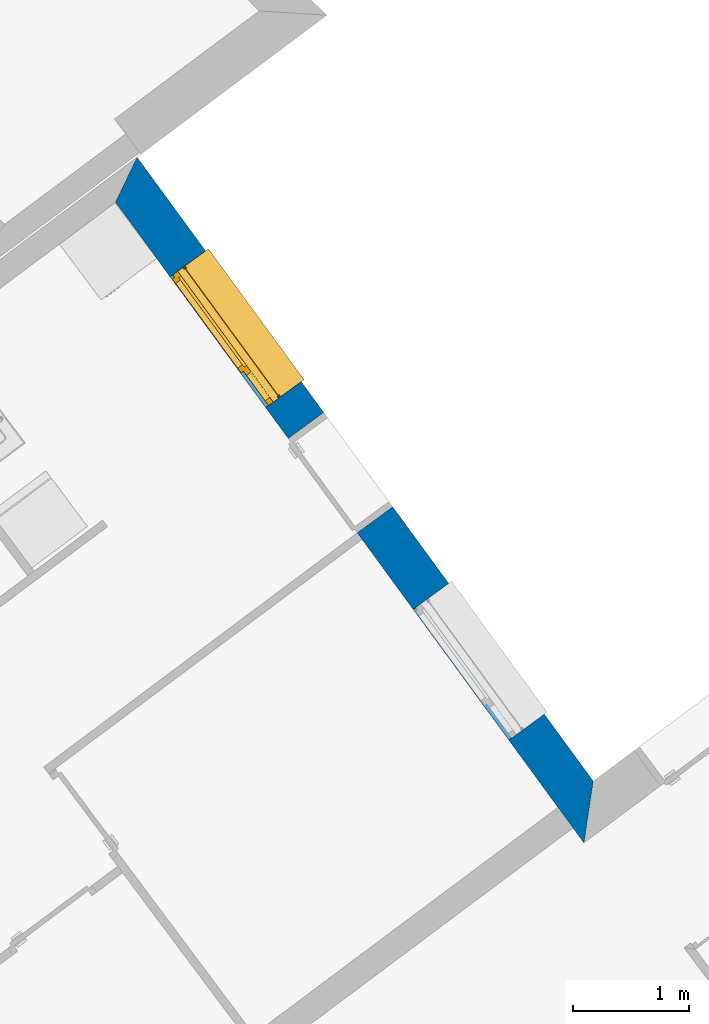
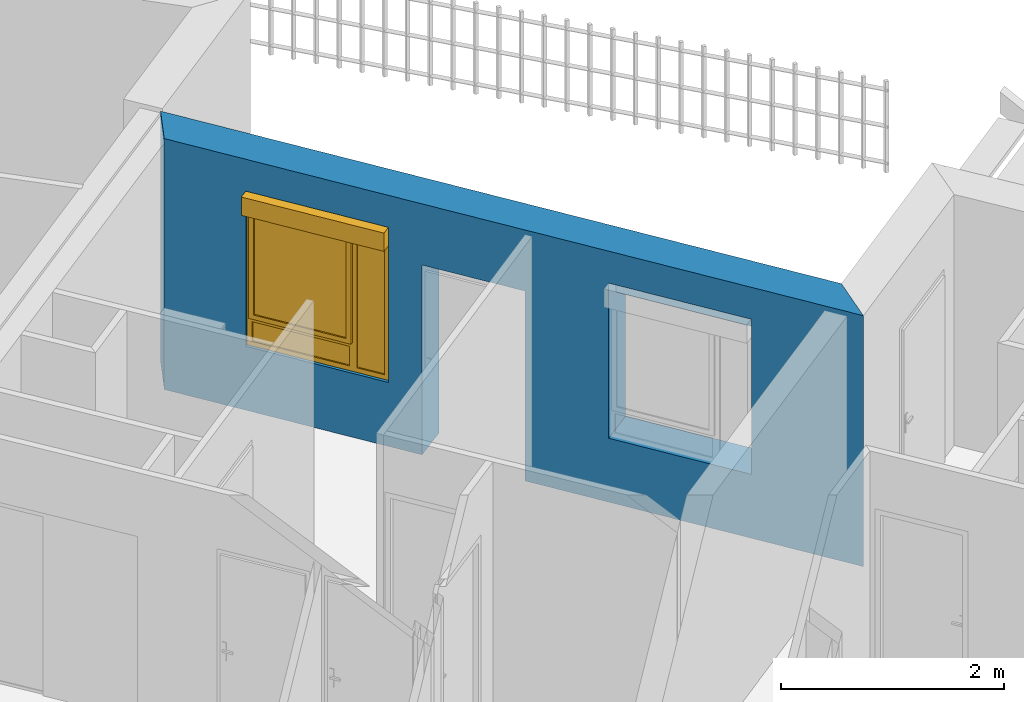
# One storey, part 11 of 195: 1 wall, 1 window, 3 openings.
"""IFC2X3 building model written with IfcOpenShell, lengths in metres."""

import ifcopenshell
import ifcopenshell.guid

model = None  # the IFC model being written
_history = None  # IfcOwnerHistory: only IFC2X3 demands one
_inside = {}  # id of a spatial element -> (the spatial element, [elements in it])
_under = {}  # id of a project, library or spatial element -> (it, [spatial elements below it])
_declared = {}  # id of a project -> (the project, [libraries it declares])
_typed = {}  # id of a type object -> (the type object, [elements of that type])
_made_of = {}  # id of a material, layer set ... -> (it, [elements and type objects made of it])


def new_model(schema):
    """Start an empty IFC model of exactly this schema.

    Asked for "IFC4X3", IfcOpenShell would pick the latest addendum, in which some entities
    have other attributes; the version numbers below select the first issue.
    IFC2X3 requires an IfcOwnerHistory on every rooted entity: one is made here for all.
    """
    global model, _history
    if schema == "IFC4X3":
        model = ifcopenshell.file(schema_version=(4, 3, 0, 0))
    else:
        model = ifcopenshell.file(schema=schema)
    _inside.clear()
    _under.clear()
    _declared.clear()
    _typed.clear()
    _made_of.clear()
    _history = None
    if model.schema == "IFC2X3":
        org = make("IfcOrganization", Name="unknown")
        user = make(
            "IfcPersonAndOrganization",
            ThePerson=make("IfcPerson", FamilyName="unknown"),
            TheOrganization=org,
        )
        app = make(
            "IfcApplication",
            ApplicationDeveloper=org,
            Version="unknown",
            ApplicationFullName="unknown",
            ApplicationIdentifier="unknown",
        )
        _history = make(
            "IfcOwnerHistory",
            OwningUser=user,
            OwningApplication=app,
            ChangeAction="ADDED",
            CreationDate=0,
        )
    return model


def make(cls, **values):
    """One entity of the class cls with the attributes given. An attribute that is None is left unset."""
    return model.create_entity(
        cls, **{name: value for name, value in values.items() if value is not None}
    )


def entity(cls, *values):
    """Any entity or typed value of the class cls, its attributes in the order of the schema. None: left unset."""
    e = model.create_entity(cls)
    for i, value in enumerate(values):
        if value is not None:
            e[i] = value
    return e


def rooted(cls, **values):
    """An entity with a GlobalId (a new one), such as an element, a storey or a relation."""
    return make(cls, GlobalId=ifcopenshell.guid.new(), OwnerHistory=_history, **values)


def si_unit(unit_type, name, prefix=None):
    """IfcSIUnit, for example si_unit("LENGTHUNIT", "METRE", prefix="MILLI")."""
    return make("IfcSIUnit", UnitType=unit_type, Prefix=prefix, Name=name)


def converted_unit(unit_type, name, factor, base, dimensions=None, offset=None):
    """IfcConversionBasedUnit, such as the inch: factor (a typed value) times the base unit."""
    return make(
        "IfcConversionBasedUnit"
        if offset is None
        else "IfcConversionBasedUnitWithOffset",
        ConversionOffset=offset,
        Dimensions=None
        if dimensions is None
        else entity("IfcDimensionalExponents", *dimensions),
        UnitType=unit_type,
        Name=name,
        ConversionFactor=make(
            "IfcMeasureWithUnit", ValueComponent=factor, UnitComponent=base
        ),
    )


def derived_unit(unit_type, elements):
    """IfcDerivedUnit: a product of units, each with its exponent."""
    return make(
        "IfcDerivedUnit",
        Elements=[
            make("IfcDerivedUnitElement", Unit=unit, Exponent=power)
            for unit, power in elements
        ],
        UnitType=unit_type,
    )


def money_unit(currency):
    """IfcMonetaryUnit."""
    return make("IfcMonetaryUnit", Currency=currency)


def assignment(units):
    """IfcUnitAssignment: the units of a project."""
    return None if units is None else make("IfcUnitAssignment", Units=units)


def point(xyz):
    """IfcCartesianPoint."""
    return None if xyz is None else make("IfcCartesianPoint", Coordinates=xyz)


def direction(xyz):
    """IfcDirection."""
    return None if xyz is None else make("IfcDirection", DirectionRatios=xyz)


def frame(location, z_axis=None, x_axis=None):
    """IfcAxis2Placement3D, a coordinate frame: its origin and axes. An axis left out is left unset."""
    return make(
        "IfcAxis2Placement3D",
        Location=point(location),
        Axis=direction(z_axis),
        RefDirection=direction(x_axis),
    )


def frame_2d(location, x_axis=None):
    """IfcAxis2Placement2D, a coordinate frame in the plane: its origin and x axis."""
    return make(
        "IfcAxis2Placement2D", Location=point(location), RefDirection=direction(x_axis)
    )


def origin_with_axes():
    """The frame at (0, 0, 0) with the z axis (0, 0, 1) and the x axis (1, 0, 0) written out."""
    return frame((0.0, 0.0, 0.0), z_axis=(0.0, 0.0, 1.0), x_axis=(1.0, 0.0, 0.0))


def origin_2d_with_axis():
    """The frame at (0, 0) in the plane with the x axis (1, 0) written out."""
    return frame_2d((0.0, 0.0), x_axis=(1.0, 0.0))


def place(relative_to, where):
    """IfcLocalPlacement: puts the frame where relative to a parent placement (None: the world)."""
    return make(
        "IfcLocalPlacement", PlacementRelTo=relative_to, RelativePlacement=where
    )


def context(
    kind, dimensions, precision=None, world=None, true_north=None, identifier=None
):
    """IfcGeometricRepresentationContext, for example the 3D "Model" context."""
    return make(
        "IfcGeometricRepresentationContext",
        ContextIdentifier=identifier,
        ContextType=kind,
        CoordinateSpaceDimension=dimensions,
        Precision=precision,
        WorldCoordinateSystem=world,
        TrueNorth=true_north,
    )


def subcontext(parent, identifier, kind, view, scale=None):
    """IfcGeometricRepresentationSubContext, for example "Body" below "Model"."""
    return make(
        "IfcGeometricRepresentationSubContext",
        ContextIdentifier=identifier,
        ContextType=kind,
        ParentContext=parent,
        TargetScale=scale,
        TargetView=view,
    )


def project(units=None, contexts=None):
    """IfcProject with its units and contexts."""
    return rooted(
        "IfcProject",
        Name="project",
        RepresentationContexts=contexts,
        UnitsInContext=assignment(units),
    )


def spatial(cls, under=None, at=None, **own):
    """A site, building, storey or space (cls), placed at a placement, below another one or the project."""
    s = rooted(cls, ObjectPlacement=at, **own)
    if under is not None:
        _under.setdefault(under.id(), (under, []))[1].append(s)
    return s


def polyline(points):
    """IfcPolyline through the points."""
    return make("IfcPolyline", Points=[point(p) for p in points])


def profile(cls, at=None, kind="AREA", **sizes):
    """A parametric profile (cls). Its sizes go by their IFC names, for example OverallWidth=200.0."""
    return make(cls, ProfileType=kind, Position=at, **sizes)


def rectangle(**sizes):
    """IfcRectangleProfileDef."""
    return profile("IfcRectangleProfileDef", **sizes)


def outline(outer, holes=None, kind="AREA"):
    """IfcArbitraryClosedProfileDef: a profile drawn as a closed curve; with holes, ...WithVoids."""
    if holes is None:
        return make("IfcArbitraryClosedProfileDef", ProfileType=kind, OuterCurve=outer)
    return make(
        "IfcArbitraryProfileDefWithVoids",
        ProfileType=kind,
        OuterCurve=outer,
        InnerCurves=holes,
    )


def extrude(swept, where, along, depth):
    """IfcExtrudedAreaSolid: the profile swept, set in the frame where, extruded along a direction by depth."""
    return make(
        "IfcExtrudedAreaSolid",
        SweptArea=swept,
        Position=where,
        ExtrudedDirection=direction(along),
        Depth=depth,
    )


def faces_of(points, faces, orient=None, outer=None):
    """IfcFace entities. A face is a list of loops; a loop is a list of indices into points, from 0.

    orient and outer hold one flag for each loop. By default every Orientation is true, the
    first loop of a face is its IfcFaceOuterBound and the others are IfcFaceBound.
    """
    made = []
    for i, loops in enumerate(faces):
        bounds = []
        for j, loop in enumerate(loops):
            is_outer = j == 0 if outer is None else outer[i][j]
            bounds.append(
                make(
                    "IfcFaceOuterBound" if is_outer else "IfcFaceBound",
                    Bound=make("IfcPolyLoop", Polygon=[points[k] for k in loop]),
                    Orientation=True if orient is None else orient[i][j],
                )
            )
        made.append(make("IfcFace", Bounds=bounds))
    return made


def open_shell(faces, orient=None, outer=None):
    """The faces of one IfcOpenShell. surface_model builds it on its shared points."""
    return ("IfcOpenShell", faces, orient, outer)


def faceted_brep(points, faces, orient=None, outer=None, voids=None):
    """IfcFacetedBrep: a solid bounded by flat faces; with voids (closed shells), ...WithVoids."""
    shared = [point(p) for p in points]
    hull = make("IfcClosedShell", CfsFaces=faces_of(shared, faces, orient, outer))
    if voids is None:
        return make("IfcFacetedBrep", Outer=hull)
    return make(
        "IfcFacetedBrepWithVoids",
        Outer=hull,
        Voids=[
            make(cls, CfsFaces=faces_of(shared, fs, o, b)) for cls, fs, o, b in voids
        ],
    )


def surface_model(cls, points, shells):
    """IfcFaceBasedSurfaceModel or IfcShellBasedSurfaceModel (cls): surfaces that need not close."""
    shared = [point(p) for p in points]
    made = [make(c, CfsFaces=faces_of(shared, fs, o, b)) for c, fs, o, b in shells]
    if cls == "IfcFaceBasedSurfaceModel":
        return make(cls, FbsmFaces=made)
    return make(cls, SbsmBoundary=made)


def shape(context_of_items, identifier, shape_type, items):
    """IfcShapeRepresentation: the items that make up one representation, for example the "Body"."""
    return make(
        "IfcShapeRepresentation",
        ContextOfItems=context_of_items,
        RepresentationIdentifier=identifier,
        RepresentationType=shape_type,
        Items=items,
    )


def source(mapping_origin, context_of_items, identifier, shape_type, items):
    """IfcRepresentationMap: a shape defined once, which mapped items show again and again."""
    return make(
        "IfcRepresentationMap",
        MappingOrigin=mapping_origin,
        MappedRepresentation=shape(context_of_items, identifier, shape_type, items),
    )


def transform(
    local_origin,
    x_axis=None,
    y_axis=None,
    z_axis=None,
    scale=None,
    scale2=None,
    scale3=None,
    uniform=True,
):
    """IfcCartesianTransformationOperator3D, or its non-uniform kind. x_axis, y_axis, z_axis: its Axis1, 2, 3."""
    if uniform:
        return make(
            "IfcCartesianTransformationOperator3D",
            Axis1=direction(x_axis),
            Axis2=direction(y_axis),
            LocalOrigin=point(local_origin),
            Scale=scale,
            Axis3=direction(z_axis),
        )
    return make(
        "IfcCartesianTransformationOperator3DnonUniform",
        Axis1=direction(x_axis),
        Axis2=direction(y_axis),
        LocalOrigin=point(local_origin),
        Scale=scale,
        Axis3=direction(z_axis),
        Scale2=scale2,
        Scale3=scale3,
    )


def mapped(mapping_source, mapping_target):
    """IfcMappedItem: shows the shape of a source again, moved by a transform."""
    return make(
        "IfcMappedItem", MappingSource=mapping_source, MappingTarget=mapping_target
    )


def material(Name=None, Category=None):
    """IfcMaterial."""
    return make("IfcMaterial", Name=Name, Category=Category)


def layer(
    of_material, thickness, ventilated=None, Name=None, Category=None, Priority=None
):
    """IfcMaterialLayer: one layer of a wall or slab, of a material (None: an air gap)."""
    return make(
        "IfcMaterialLayer",
        Material=of_material,
        LayerThickness=thickness,
        IsVentilated=ventilated,
        Name=Name,
        Category=Category,
        Priority=Priority,
    )


def layer_set(layers, Name=None):
    """IfcMaterialLayerSet."""
    return make("IfcMaterialLayerSet", MaterialLayers=layers, LayerSetName=Name)


def layer_usage(for_layer_set, set_direction, sense, offset, extent=None):
    """IfcMaterialLayerSetUsage: how a layer set lies in its element."""
    return make(
        "IfcMaterialLayerSetUsage",
        ForLayerSet=for_layer_set,
        LayerSetDirection=set_direction,
        DirectionSense=sense,
        OffsetFromReferenceLine=offset,
        ReferenceExtent=extent,
    )


def made_of(thing, what):
    """Note that an element or type object is made of a material, layer set ...; save() writes the relation."""
    if what is not None:
        _made_of.setdefault(what.id(), (what, []))[1].append(thing)
    return thing


def type_object(cls, material=None, **own):
    """A type object (cls), such as IfcWallType, which elements share."""
    return made_of(rooted(cls, **own), material)


def element(
    cls,
    number,
    at=None,
    inside=None,
    cuts=None,
    type_object=None,
    material=None,
    context=None,
    identifier="Body",
    shape_type=None,
    held_by="IfcProductDefinitionShape",
    body=None,
    shapes=None,
    **own,
):
    """One element of the class cls, such as IfcWall. Its Tag is "e" and its number.

    at: its placement. inside: the storey or other place that contains it. cuts: it is an
    opening in that element (IfcRelVoidsElement). A single representation is given by context,
    identifier, shape_type and body (its items); several are given by shapes. held_by: the class
    of the entity that holds the representations. save() writes the other relations.
    """
    e = rooted(cls, Tag="e%d" % number, ObjectPlacement=at, **own)
    if body is not None:
        shapes = [shape(context, identifier, shape_type, body)]
    if shapes is not None:
        e.Representation = make(held_by, Representations=shapes)
    if inside is not None:
        _inside.setdefault(inside.id(), (inside, []))[1].append(e)
    if cuts is not None:
        rooted(
            "IfcRelVoidsElement", RelatingBuildingElement=cuts, RelatedOpeningElement=e
        )
    if type_object is not None:
        _typed.setdefault(type_object.id(), (type_object, []))[1].append(e)
    return made_of(e, material)


def fill(opening, filler):
    """IfcRelFillsElement: the door or window that sits in an opening."""
    return rooted(
        "IfcRelFillsElement",
        RelatingOpeningElement=opening,
        RelatedBuildingElement=filler,
    )


def aggregate(whole, parts):
    """IfcRelAggregates: a whole, such as a stair, and the parts it consists of."""
    return rooted("IfcRelAggregates", RelatingObject=whole, RelatedObjects=parts)


def save(model, path):
    """Write the relations noted so far, then the file.

    IfcRelAggregates (storeys below a building ...), IfcRelContainedInSpatialStructure (elements
    in a storey), IfcRelDefinesByType, IfcRelAssociatesMaterial and IfcRelDeclares: one each for
    every whole, place, type object, material and project.
    """
    for whole, parts in _under.values():
        aggregate(whole, parts)
    for where, things in _inside.values():
        rooted(
            "IfcRelContainedInSpatialStructure",
            RelatedElements=things,
            RelatingStructure=where,
        )
    for kind, things in _typed.values():
        rooted("IfcRelDefinesByType", RelatedObjects=things, RelatingType=kind)
    for what, things in _made_of.values():
        rooted("IfcRelAssociatesMaterial", RelatedObjects=things, RelatingMaterial=what)
    for by, libraries in _declared.values():
        rooted("IfcRelDeclares", RelatingContext=by, RelatedDefinitions=libraries)
    model.write(path)


model = new_model("IFC2X3")

# Units and contexts
model_context = context("Model", 3, precision=1e-05, world=origin_with_axes(), true_north=direction((0.0, 1.0)))
body_context = subcontext(model_context, "Body", "Model", "MODEL_VIEW")
ifc_project = project(units=[si_unit("LENGTHUNIT", "METRE"), si_unit("AREAUNIT", "SQUARE_METRE"), si_unit("VOLUMEUNIT", "CUBIC_METRE"), converted_unit("PLANEANGLEUNIT", "DEGREE", entity("IfcPlaneAngleMeasure", 0.0174532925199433), si_unit("PLANEANGLEUNIT", "RADIAN"), dimensions=[0, 0, 0, 0, 0, 0, 0]), money_unit("CHF"), converted_unit("TIMEUNIT", "Year", entity("IfcTimeMeasure", 31557600.0), si_unit("TIMEUNIT", "SECOND"), dimensions=[0, 0, 1, 0, 0, 0, 0]), si_unit("MASSUNIT", "GRAM", prefix="KILO"), si_unit("THERMODYNAMICTEMPERATUREUNIT", "DEGREE_CELSIUS"), si_unit("LUMINOUSINTENSITYUNIT", "LUMEN"), si_unit("ENERGYUNIT", "JOULE", prefix="MEGA"), derived_unit("THERMALCONDUCTANCEUNIT", [(si_unit("POWERUNIT", "WATT"), 1), (si_unit("LENGTHUNIT", "METRE"), -1), (si_unit("THERMODYNAMICTEMPERATUREUNIT", "KELVIN"), -1)]), derived_unit("SPECIFICHEATCAPACITYUNIT", [(si_unit("ENERGYUNIT", "JOULE"), 1), (si_unit("MASSUNIT", "GRAM", prefix="KILO"), -1), (si_unit("THERMODYNAMICTEMPERATUREUNIT", "KELVIN"), -1)]), derived_unit("MASSDENSITYUNIT", [(si_unit("MASSUNIT", "GRAM", prefix="KILO"), 1), (si_unit("VOLUMEUNIT", "CUBIC_METRE"), -1)])], contexts=[model_context])

# Site, building, storey
site_placement = place(None, origin_with_axes())
site = spatial("IfcSite", under=ifc_project, at=site_placement, Name="Site", CompositionType="ELEMENT")
building_placement = place(site_placement, origin_with_axes())
building = spatial("IfcBuilding", under=site, at=building_placement, Name="Bâtiment", CompositionType="ELEMENT")
storey_placement = place(building_placement, origin_with_axes())
storey = spatial("IfcBuildingStorey", under=building, at=storey_placement, Name="rdc", CompositionType="ELEMENT", Elevation=0.0)

# Wall, openings, window
ifc_material_1 = material(Name="Parpaing 312445824")
ifc_layer_1 = layer(ifc_material_1, 0.22, ventilated="UNKNOWN")
ifc_material_2 = material(Name="Isolant styromousse 301821074")
ifc_layer_2 = layer(ifc_material_2, 0.16, ventilated="UNKNOWN")
ifc_layer_set = layer_set([ifc_layer_1, ifc_layer_2], Name="isol int 22+16 0836643197")
ifc_layer_usage = layer_usage(ifc_layer_set, "AXIS2", "POSITIVE", 0.0)
wall_type = type_object("IfcWallType", Name="isol int 22+16 0836643197 380", PredefinedType="NOTDEFINED")
wall_placement = place(storey_placement, frame((9541.451386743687, -1075.117736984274, 57.7), z_axis=(0.0, 0.0, 1.0), x_axis=(-0.5902012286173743, 0.8072561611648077, 0.0)))
wall = element("IfcWallStandardCase", 1, at=wall_placement, inside=storey, type_object=wall_type, material=ifc_layer_usage, Name="Mur-113", context=body_context, shape_type="SweptSolid", body=[
    extrude(outline(polyline([(0.0, 0.0), (6.680351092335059, 0.0), (6.476444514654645, 0.3800000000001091), (-0.3839160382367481, 0.3800000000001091), (0.0, 0.0)])), origin_with_axes(), (0.0, 0.0, 1.0), 2.75),
])
opening_1_placement = place(wall_placement, frame((4.976733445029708, 0.0, 0.7000000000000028), z_axis=(0.0, 0.0, 1.0), x_axis=(1.0, 0.0, 0.0)))
opening_1 = element("IfcOpeningElement", 2, at=opening_1_placement, cuts=wall, Name="Fen-045", context=body_context, shape_type="Brep", body=[
    faceted_brep([(0.7000000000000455, 0.2199999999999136, 1.5), (-0.6999999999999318, 0.2200000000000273, 1.5), (-0.7000000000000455, -3.183810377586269, 1.5), (0.6999999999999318, -3.183810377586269, 1.5), (0.7000000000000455, 0.2199999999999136, 1.700000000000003), (-0.6999999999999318, 0.2200000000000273, 1.700000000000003), (-0.6999999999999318, 0.3000000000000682, 1.5), (-0.6999999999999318, 0.3000000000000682, 0.0), (-0.7000000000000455, -3.183810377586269, 0.0), (0.6999999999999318, -3.183810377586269, 0.0), (0.7000000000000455, 0.3000000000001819, 1.5), (0.7000000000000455, 0.3000000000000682, 0.0), (0.6999999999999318, 0.4800000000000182, 1.5), (0.6999999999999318, 0.4800000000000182, 1.700000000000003), (-0.7000000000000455, 0.4799999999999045, 1.700000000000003), (-0.7000000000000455, 0.4799999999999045, 1.5), (-0.7000000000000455, 3.563810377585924, 1.5), (-0.7000000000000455, 3.563810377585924, 0.0), (0.7000000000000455, 3.563810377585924, 0.0), (0.7000000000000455, 3.563810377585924, 1.5)], [[[0, 1, 2, 3]], [[1, 0, 4, 5]], [[1, 6, 7, 8, 2]], [[2, 8, 9, 3]], [[10, 0, 3, 9, 11]], [[0, 10, 12, 13, 4]], [[14, 5, 4, 13]], [[6, 1, 5, 14, 15]], [[6, 15, 16, 17, 7]], [[11, 9, 8, 7, 17, 18]], [[12, 10, 11, 18, 19]], [[12, 15, 14, 13]], [[15, 12, 19, 16]], [[19, 18, 17, 16]]]),
])
opening_2_placement = place(wall_placement, frame((1.416247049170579, 0.0, 0.7000000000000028), z_axis=(0.0, 0.0, 1.0), x_axis=(1.0, 0.0, 0.0)))
element("IfcOpeningElement", 3, at=opening_2_placement, cuts=wall, Name="Fen-045", context=body_context, shape_type="Brep", body=[
    faceted_brep([(0.6999999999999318, 0.220000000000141, 1.5), (-0.7000000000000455, 0.220000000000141, 1.5), (-0.7000000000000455, -3.183810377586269, 1.5), (0.6999999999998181, -3.183810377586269, 1.5), (0.6999999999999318, 0.220000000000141, 1.700000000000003), (-0.7000000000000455, 0.220000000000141, 1.700000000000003), (-0.7000000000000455, 0.3000000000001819, 1.5), (-0.7000000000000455, 0.3000000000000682, 0.0), (-0.7000000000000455, -3.183810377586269, 0.0), (0.6999999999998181, -3.183810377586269, 0.0), (0.6999999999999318, 0.3000000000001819, 1.5), (0.7000000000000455, 0.3000000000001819, 0.0), (0.6999999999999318, 0.4800000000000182, 1.5), (0.6999999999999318, 0.4800000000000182, 1.700000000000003), (-0.7000000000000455, 0.4800000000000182, 1.700000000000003), (-0.7000000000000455, 0.4800000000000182, 1.5), (-0.7000000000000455, 3.563810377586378, 1.5), (-0.7000000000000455, 3.563810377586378, 0.0), (0.7000000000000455, 3.563810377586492, 0.0), (0.7000000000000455, 3.563810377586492, 1.5)], [[[0, 1, 2, 3]], [[1, 0, 4, 5]], [[1, 6, 7, 8, 2]], [[2, 8, 9, 3]], [[10, 0, 3, 9, 11]], [[0, 10, 12, 13, 4]], [[14, 5, 4, 13]], [[6, 1, 5, 14, 15]], [[6, 15, 16, 17, 7]], [[11, 9, 8, 7, 17, 18]], [[12, 10, 11, 18, 19]], [[12, 15, 14, 13]], [[15, 12, 19, 16]], [[19, 18, 17, 16]]]),
])
opening_3_placement = place(wall_placement, frame((3.44115834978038, 0.0, 0.0), z_axis=(0.0, 0.0, 1.0), x_axis=(1.0, 0.0, 0.0)))
element("IfcOpeningElement", 4, at=opening_3_placement, cuts=wall, Name="Por-303", context=body_context, shape_type="SweptSolid", body=[
    extrude(rectangle(XDim=1.01000001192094, YDim=2.079999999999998, at=origin_2d_with_axis()), frame((-5.960600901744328e-09, -0.3799999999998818, 1.039999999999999), z_axis=(0.0, -1.0, 0.0), x_axis=(-1.0, 0.0, 0.0)), (0.0, 0.0, -1.0), 0.76),
])
window_style = type_object("IfcWindowStyle", Name="Fenêtre variable 27", ConstructionType="NOTDEFINED", OperationType="TRIPLE_PANEL_LEFT", ParameterTakesPrecedence=False, Sizeable=False)
shared_shape = source(origin_with_axes(), body_context, "Body", "SurfaceModel", [
    surface_model("IfcShellBasedSurfaceModel", [(0.7, -0.05100000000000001, 0.05), (-0.7, -0.05100000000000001, 0.05000000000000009), (-0.7, -0.05100000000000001, 0.04000000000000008), (0.7, -0.05100000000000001, 0.04), (-0.7, -0.3799999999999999, 0.02900000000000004), (0.7, -0.3799999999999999, 0.02899999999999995), (-0.7, -0.3799999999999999, 0.00900000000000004), (0.7, -0.3799999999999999, 0.008999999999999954), (-0.7, -0.3699999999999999, 0.01900000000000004), (0.7, -0.3699999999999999, 0.01899999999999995)], [open_shell([[[0, 1, 2, 3]], [[3, 2, 4, 5]], [[5, 4, 6, 7]], [[7, 6, 8, 9]]])]),
    faceted_brep([(0.7, -0.13, 1.7), (0.7, 0.13, 1.7), (0.697, 0.13, 1.7), (0.697, -0.13, 1.7), (0.7, -0.13, 1.5), (0.7, 0.13, 1.5), (0.697, 0.13, 1.5), (0.697, -0.13, 1.5)], [[[0, 1, 2, 3]], [[0, 4, 5, 1]], [[1, 5, 6, 2]], [[3, 2, 6, 7]], [[4, 0, 3, 7]], [[5, 4, 7, 6]]]),
    faceted_brep([(-0.6970000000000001, -0.1299999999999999, 1.7), (-0.6970000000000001, 0.1300000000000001, 1.7), (-0.7000000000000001, 0.1300000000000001, 1.7), (-0.7000000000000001, -0.1299999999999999, 1.7), (-0.6970000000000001, -0.1299999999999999, 1.5), (-0.6970000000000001, 0.1300000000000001, 1.5), (-0.7000000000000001, 0.1300000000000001, 1.5), (-0.7000000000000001, -0.1299999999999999, 1.5)], [[[0, 1, 2, 3]], [[0, 4, 5, 1]], [[1, 5, 6, 2]], [[3, 2, 6, 7]], [[4, 0, 3, 7]], [[5, 4, 7, 6]]]),
    faceted_brep([(0.697, -0.13, 1.5), (0.697, -0.13, 1.7), (-0.697, -0.1299999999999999, 1.7), (-0.697, -0.1299999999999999, 1.5), (0.697, -0.127, 1.5), (0.697, -0.127, 1.697), (0.697, 0.127, 1.697), (0.697, 0.127, 1.503), (0.697, -0.108, 1.503), (0.697, -0.108, 1.5), (0.697, 0.13, 1.5), (0.697, 0.13, 1.7), (-0.697, 0.1300000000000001, 1.7), (-0.697, 0.1300000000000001, 1.5), (-0.697, -0.1079999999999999, 1.5), (-0.697, -0.1079999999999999, 1.503), (-0.697, 0.1270000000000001, 1.503), (-0.697, 0.1270000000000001, 1.697), (-0.697, -0.1269999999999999, 1.697), (-0.697, -0.1269999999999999, 1.5)], [[[0, 1, 2, 3]], [[0, 4, 5, 6, 7, 8, 9, 10, 11, 1]], [[1, 11, 12, 2]], [[3, 2, 12, 13, 14, 15, 16, 17, 18, 19]], [[4, 0, 3, 19]], [[5, 4, 19, 18]], [[6, 5, 18, 17]], [[7, 6, 17, 16]], [[8, 7, 16, 15]], [[9, 8, 15, 14]], [[10, 9, 14, 13]], [[11, 10, 13, 12]]]),
    faceted_brep([(0.694, -0.08075423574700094, 1.585760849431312), (0.694, -0.07705479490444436, 1.571954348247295), (0.694, -0.07101408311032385, 1.559), (0.694, -0.06281564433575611, 1.547291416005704), (0.694, -0.05270858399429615, 1.537184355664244), (0.694, -0.04099999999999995, 1.528985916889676), (0.694, -0.02804565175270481, 1.522945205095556), (0.694, -0.01423915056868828, 1.519245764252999), (0.694, 0.0, 1.518), (0.694, 0.01423915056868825, 1.519245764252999), (0.694, 0.02804565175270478, 1.522945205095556), (0.694, 0.04099999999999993, 1.528985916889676), (0.694, 0.05270858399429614, 1.537184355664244), (0.694, 0.06281564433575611, 1.547291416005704), (0.694, 0.07101408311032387, 1.559), (0.694, 0.07705479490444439, 1.571954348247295), (0.694, 0.08075423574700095, 1.585760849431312), (0.694, 0.0819999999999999, 1.6), (0.694, 0.08075423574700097, 1.614239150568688), (0.694, 0.0770547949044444, 1.628045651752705), (0.694, 0.07101408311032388, 1.641), (0.694, 0.06281564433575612, 1.652708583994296), (0.694, 0.05270858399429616, 1.662815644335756), (0.694, 0.04099999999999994, 1.671014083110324), (0.694, 0.02804565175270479, 1.677054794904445), (0.694, 0.01423915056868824, 1.680754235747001), (0.694, 0.0, 1.682), (0.694, -0.01423915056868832, 1.680754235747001), (0.694, -0.02804565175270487, 1.677054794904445), (0.694, -0.04100000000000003, 1.671014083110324), (0.694, -0.05270858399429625, 1.662815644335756), (0.694, -0.06281564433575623, 1.652708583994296), (0.694, -0.07101408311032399, 1.641), (0.694, -0.07705479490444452, 1.628045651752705), (0.694, -0.0807542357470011, 1.614239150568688), (0.694, -0.08200000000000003, 1.6), (-0.694, -0.08075423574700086, 1.585760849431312), (-0.694, -0.07705479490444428, 1.571954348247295), (-0.694, -0.07101408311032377, 1.559), (-0.694, -0.06281564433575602, 1.547291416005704), (-0.694, -0.05270858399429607, 1.537184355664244), (-0.694, -0.04099999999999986, 1.528985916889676), (-0.694, -0.02804565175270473, 1.522945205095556), (-0.694, -0.0142391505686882, 1.519245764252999), (-0.694, 0.0, 1.518), (-0.694, 0.01423915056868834, 1.519245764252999), (-0.694, 0.02804565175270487, 1.522945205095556), (-0.694, 0.04100000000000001, 1.528985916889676), (-0.694, 0.05270858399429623, 1.537184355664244), (-0.694, 0.06281564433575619, 1.547291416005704), (-0.694, 0.07101408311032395, 1.559), (-0.694, 0.07705479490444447, 1.571954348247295), (-0.694, 0.08075423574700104, 1.585760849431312), (-0.694, 0.08199999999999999, 1.6), (-0.694, 0.08075423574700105, 1.614239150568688), (-0.694, 0.07705479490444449, 1.628045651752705), (-0.694, 0.07101408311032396, 1.641), (-0.694, 0.0628156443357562, 1.652708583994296), (-0.694, 0.05270858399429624, 1.662815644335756), (-0.694, 0.04100000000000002, 1.671014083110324), (-0.694, 0.02804565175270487, 1.677054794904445), (-0.694, 0.01423915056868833, 1.680754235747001), (-0.694, 0.0, 1.682), (-0.694, -0.01423915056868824, 1.680754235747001), (-0.694, -0.02804565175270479, 1.677054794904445), (-0.694, -0.04099999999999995, 1.671014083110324), (-0.694, -0.05270858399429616, 1.662815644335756), (-0.694, -0.06281564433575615, 1.652708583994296), (-0.694, -0.07101408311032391, 1.641), (-0.694, -0.07705479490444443, 1.628045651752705), (-0.694, -0.08075423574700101, 1.614239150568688), (-0.694, -0.08199999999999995, 1.6)], [[[0, 1, 2, 3, 4, 5, 6, 7, 8, 9, 10, 11, 12, 13, 14, 15, 16, 17, 18, 19, 20, 21, 22, 23, 24, 25, 26, 27, 28, 29, 30, 31, 32, 33, 34, 35]], [[1, 0, 36, 37]], [[2, 1, 37, 38]], [[3, 2, 38, 39]], [[4, 3, 39, 40]], [[5, 4, 40, 41]], [[6, 5, 41, 42]], [[7, 6, 42, 43]], [[8, 7, 43, 44]], [[9, 8, 44, 45]], [[10, 9, 45, 46]], [[11, 10, 46, 47]], [[12, 11, 47, 48]], [[13, 12, 48, 49]], [[14, 13, 49, 50]], [[15, 14, 50, 51]], [[16, 15, 51, 52]], [[17, 16, 52, 53]], [[18, 17, 53, 54]], [[19, 18, 54, 55]], [[20, 19, 55, 56]], [[21, 20, 56, 57]], [[22, 21, 57, 58]], [[23, 22, 58, 59]], [[24, 23, 59, 60]], [[25, 24, 60, 61]], [[26, 25, 61, 62]], [[27, 26, 62, 63]], [[28, 27, 63, 64]], [[29, 28, 64, 65]], [[30, 29, 65, 66]], [[31, 30, 66, 67]], [[32, 31, 67, 68]], [[33, 32, 68, 69]], [[34, 33, 69, 70]], [[35, 34, 70, 71]], [[0, 35, 71, 36]], [[36, 71, 70, 69, 68, 67, 66, 65, 64, 63, 62, 61, 60, 59, 58, 57, 56, 55, 54, 53, 52, 51, 50, 49, 48, 47, 46, 45, 44, 43, 42, 41, 40, 39, 38, 37]]]),
    faceted_brep([(-0.7, -0.105, 0.03), (-0.7, -0.13, 0.03), (-0.7, -0.1299999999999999, 1.5), (-0.7, -0.1049999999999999, 1.5), (-0.6749999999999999, -0.105, 0.03), (-0.6749999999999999, -0.108, 0.03), (-0.697, -0.108, 0.03), (-0.697, -0.127, 0.03), (-0.6749999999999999, -0.127, 0.03), (-0.6749999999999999, -0.13, 0.03), (-0.6749999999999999, -0.1299999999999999, 1.5), (-0.6749999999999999, -0.1269999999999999, 1.5), (-0.697, -0.1269999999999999, 1.5), (-0.697, -0.1079999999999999, 1.5), (-0.6749999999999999, -0.1079999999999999, 1.5), (-0.6749999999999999, -0.1049999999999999, 1.5)], [[[0, 1, 2, 3]], [[0, 4, 5, 6, 7, 8, 9, 1]], [[1, 9, 10, 2]], [[3, 2, 10, 11, 12, 13, 14, 15]], [[4, 0, 3, 15]], [[5, 4, 15, 14]], [[6, 5, 14, 13]], [[7, 6, 13, 12]], [[8, 7, 12, 11]], [[9, 8, 11, 10]]]),
    faceted_brep([(0.7, -0.105, 0.03), (0.7, -0.1049999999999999, 1.5), (0.7, -0.1299999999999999, 1.5), (0.7, -0.13, 0.03), (0.6749999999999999, -0.105, 0.03), (0.6749999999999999, -0.1049999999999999, 1.5), (0.6749999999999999, -0.1079999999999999, 1.5), (0.697, -0.1079999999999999, 1.5), (0.697, -0.1269999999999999, 1.5), (0.6749999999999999, -0.1269999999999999, 1.5), (0.6749999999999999, -0.1299999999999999, 1.5), (0.6749999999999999, -0.13, 0.03), (0.6749999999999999, -0.127, 0.03), (0.697, -0.127, 0.03), (0.697, -0.108, 0.03), (0.6749999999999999, -0.108, 0.03)], [[[0, 1, 2, 3]], [[4, 5, 1, 0]], [[1, 5, 6, 7, 8, 9, 10, 2]], [[3, 2, 10, 11]], [[0, 3, 11, 12, 13, 14, 15, 4]], [[15, 6, 5, 4]], [[14, 7, 6, 15]], [[13, 8, 7, 14]], [[12, 9, 8, 13]], [[11, 10, 9, 12]]]),
    surface_model("IfcShellBasedSurfaceModel", [(0.697, -0.115, 1.6), (-0.697, -0.1149999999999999, 1.6), (-0.697, -0.12, 1.6), (0.697, -0.12, 1.6), (0.697, -0.115, 1.6), (0.697, -0.12, 1.6), (-0.697, -0.1199999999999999, 1.6), (-0.697, -0.1149999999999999, 1.6)], [open_shell([[[0, 1, 2, 3]], [[4, 5, 6, 7]]])]),
    faceted_brep([(0.697, -0.115, 1.6), (0.697, -0.1166666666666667, 1.583333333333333), (-0.697, -0.1166666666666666, 1.583333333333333), (-0.697, -0.1149999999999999, 1.6), (0.697, -0.12, 1.6), (0.697, -0.1216666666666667, 1.583333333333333), (0.697, -0.1216666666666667, 1.566666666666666), (0.697, -0.12, 1.55), (0.697, -0.115, 1.55), (0.697, -0.1166666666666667, 1.566666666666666), (-0.697, -0.1166666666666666, 1.566666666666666), (-0.697, -0.1149999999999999, 1.55), (-0.697, -0.1199999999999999, 1.55), (-0.697, -0.1216666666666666, 1.566666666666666), (-0.697, -0.1216666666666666, 1.583333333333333), (-0.697, -0.1199999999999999, 1.6)], [[[0, 1, 2, 3]], [[0, 4, 5, 6, 7, 8, 9, 1]], [[1, 9, 10, 2]], [[3, 2, 10, 11, 12, 13, 14, 15]], [[4, 0, 3, 15]], [[5, 4, 15, 14]], [[6, 5, 14, 13]], [[7, 6, 13, 12]], [[8, 7, 12, 11]], [[9, 8, 11, 10]]]),
    faceted_brep([(0.697, -0.115, 1.55), (0.697, -0.1166666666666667, 1.533333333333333), (-0.697, -0.1166666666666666, 1.533333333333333), (-0.697, -0.1149999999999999, 1.55), (0.697, -0.12, 1.55), (0.697, -0.1216666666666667, 1.533333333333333), (0.697, -0.1216666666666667, 1.516666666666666), (0.697, -0.12, 1.5), (0.697, -0.115, 1.5), (0.697, -0.1166666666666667, 1.516666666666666), (-0.697, -0.1166666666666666, 1.516666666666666), (-0.697, -0.1149999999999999, 1.5), (-0.697, -0.1199999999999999, 1.5), (-0.697, -0.1216666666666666, 1.516666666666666), (-0.697, -0.1216666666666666, 1.533333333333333), (-0.697, -0.1199999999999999, 1.55)], [[[0, 1, 2, 3]], [[0, 4, 5, 6, 7, 8, 9, 1]], [[1, 9, 10, 2]], [[3, 2, 10, 11, 12, 13, 14, 15]], [[4, 0, 3, 15]], [[5, 4, 15, 14]], [[6, 5, 14, 13]], [[7, 6, 13, 12]], [[8, 7, 12, 11]], [[9, 8, 11, 10]]]),
    faceted_brep([(0.6749999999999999, 0.0, 1.45), (0.6749999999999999, -0.02500000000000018, 1.45), (0.6499999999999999, -0.02500000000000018, 1.45), (0.6499999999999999, -0.05000000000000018, 1.45), (0.7, -0.05000000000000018, 1.45), (0.7, 0.0, 1.45), (0.6749999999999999, 0.0, 0.3099999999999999), (0.6749999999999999, -0.02500000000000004, 0.3099999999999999), (0.6499999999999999, -0.02500000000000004, 0.335), (0.6499999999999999, -0.02500000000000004, 0.3099999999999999), (0.6499999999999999, -0.05000000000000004, 0.335), (0.6499999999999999, -0.05000000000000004, 0.265), (0.6499999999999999, -0.05000000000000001, 0.05000000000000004), (0.7, -0.05000000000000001, 0.05000000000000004), (0.7, 0.0, 0.05000000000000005), (0.6499999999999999, 0.0, 0.05000000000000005), (0.6499999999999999, 0.0, 0.265), (0.6499999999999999, 0.0, 0.3099999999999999)], [[[0, 1, 2, 3, 4, 5]], [[1, 0, 6, 7]], [[8, 2, 1, 7, 9]], [[2, 8, 10, 3]], [[10, 11, 12, 13, 4, 3]], [[5, 4, 13, 14]], [[6, 0, 5, 14, 15, 16, 17]], [[6, 17, 9, 7]], [[9, 17, 16, 11, 10, 8]], [[15, 12, 11, 16]], [[14, 13, 12, 15]]]),
    faceted_brep([(-0.3068894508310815, -0.02500000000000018, 1.45), (-0.3318894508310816, -0.02500000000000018, 1.45), (-0.3318894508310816, 0.0, 1.45), (-0.3768894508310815, 0.0, 1.45), (-0.3768894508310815, -0.05000000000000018, 1.45), (-0.3068894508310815, -0.05000000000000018, 1.45), (-0.3068894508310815, -0.02500000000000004, 0.335), (-0.3068894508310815, -0.02500000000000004, 0.3099999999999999), (-0.3318894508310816, -0.02500000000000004, 0.3099999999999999), (-0.3318894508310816, 0.0, 0.3099999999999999), (-0.3068894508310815, 0.0, 0.3099999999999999), (-0.3068894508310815, 0.0, 0.265), (-0.3068894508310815, 0.0, 0.05000000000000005), (-0.3768894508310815, 0.0, 0.05000000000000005), (-0.3768894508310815, -0.05000000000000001, 0.05000000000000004), (-0.3068894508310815, -0.05000000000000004, 0.265), (-0.3068894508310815, -0.05000000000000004, 0.335), (-0.3068894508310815, -0.05000000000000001, 0.05000000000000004)], [[[0, 1, 2, 3, 4, 5]], [[1, 0, 6, 7, 8]], [[9, 2, 1, 8]], [[9, 10, 11, 12, 13, 3, 2]], [[13, 14, 4, 3]], [[15, 16, 5, 4, 14, 17]], [[6, 0, 5, 16]], [[7, 6, 16, 15, 11, 10]], [[10, 9, 8, 7]], [[11, 15, 17, 12]], [[12, 17, 14, 13]]]),
    faceted_brep([(0.6499999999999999, -0.02500000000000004, 0.335), (-0.3068894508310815, -0.02500000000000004, 0.335), (-0.3068894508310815, -0.05000000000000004, 0.335), (0.6499999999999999, -0.05000000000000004, 0.335), (-0.3068894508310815, -0.02500000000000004, 0.3099999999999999), (0.6499999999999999, -0.02500000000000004, 0.3099999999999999), (-0.3068894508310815, 0.0, 0.3099999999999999), (-0.3068894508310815, 0.0, 0.265), (-0.3068894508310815, -0.05000000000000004, 0.265), (0.6499999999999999, -0.05000000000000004, 0.265), (0.6499999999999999, 0.0, 0.265), (0.6499999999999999, 0.0, 0.3099999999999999)], [[[0, 1, 2, 3]], [[4, 1, 0, 5]], [[4, 6, 7, 8, 2, 1]], [[2, 8, 9, 3]], [[5, 0, 3, 9, 10, 11]], [[11, 6, 4, 5]], [[6, 11, 10, 7]], [[10, 9, 8, 7]]]),
    faceted_brep([(0.6749999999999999, 0.0, 1.45), (0.6749999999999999, 0.0, 1.475), (-0.3318894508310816, 0.0, 1.475), (-0.3318894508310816, 0.0, 1.45), (-0.3768894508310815, 0.0, 1.45), (-0.6499999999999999, 0.0, 1.45), (-0.7, 0.0, 1.45), (-0.7, 0.0, 1.5), (0.7, 0.0, 1.5), (0.7, 0.0, 1.45), (0.6749999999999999, -0.02500000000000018, 1.45), (0.6749999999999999, -0.02500000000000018, 1.475), (-0.3318894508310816, -0.02500000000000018, 1.475), (-0.3318894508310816, -0.02500000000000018, 1.45), (-0.3068894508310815, -0.02500000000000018, 1.45), (-0.3068894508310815, -0.05000000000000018, 1.45), (-0.3768894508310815, -0.05000000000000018, 1.45), (-0.6499999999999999, -0.05000000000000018, 1.45), (-0.7, -0.05000000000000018, 1.45), (-0.7, -0.05000000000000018, 1.5), (0.7, -0.05000000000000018, 1.5), (0.7, -0.05000000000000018, 1.45), (0.6499999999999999, -0.05000000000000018, 1.45), (0.6499999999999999, -0.02500000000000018, 1.45)], [[[0, 1, 2, 3, 4, 5, 6, 7, 8, 9]], [[1, 0, 10, 11]], [[2, 1, 11, 12]], [[3, 2, 12, 13]], [[13, 14, 15, 16, 4, 3]], [[4, 16, 17, 5]], [[5, 17, 18, 6]], [[6, 18, 19, 7]], [[7, 19, 20, 8]], [[8, 20, 21, 9]], [[10, 0, 9, 21, 22, 23]], [[14, 13, 12, 11, 10, 23]], [[14, 23, 22, 15]], [[16, 15, 22, 21, 20, 19, 18, 17]]]),
    faceted_brep([(-0.6499999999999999, -0.05000000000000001, 0.05), (-0.7, -0.05000000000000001, 0.05), (-0.7, 0.0, 0.05000000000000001), (-0.6499999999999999, 0.0, 0.05000000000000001), (-0.6499999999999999, -0.05000000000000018, 1.45), (-0.7, -0.05000000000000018, 1.45), (-0.7, 0.0, 1.45), (-0.6499999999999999, 0.0, 1.45)], [[[0, 1, 2, 3]], [[0, 4, 5, 1]], [[1, 5, 6, 2]], [[3, 2, 6, 7]], [[4, 0, 3, 7]], [[5, 4, 7, 6]]]),
    faceted_brep([(0.6499999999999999, -0.05000000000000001, 0.05), (0.7, -0.05000000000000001, 0.05), (0.7, 0.0, 0.05000000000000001), (0.6499999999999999, 0.0, 0.05000000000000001), (-0.3068894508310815, -0.05000000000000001, 0.05), (-0.3768894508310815, -0.05000000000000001, 0.05), (-0.6499999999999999, -0.05000000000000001, 0.05), (-0.7, -0.05000000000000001, 0.05), (-0.7, -0.05, 0.0), (0.7, -0.05, 0.0), (0.7, 0.0, 0.0), (-0.7, 0.0, 0.0), (-0.7, 0.0, 0.05000000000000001), (-0.6499999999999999, 0.0, 0.05000000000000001), (-0.3768894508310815, 0.0, 0.05000000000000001), (-0.3068894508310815, 0.0, 0.05000000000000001)], [[[0, 1, 2, 3]], [[0, 4, 5, 6, 7, 8, 9, 1]], [[1, 9, 10, 2]], [[3, 2, 10, 11, 12, 13, 14, 15]], [[4, 0, 3, 15]], [[5, 4, 15, 14]], [[6, 5, 14, 13]], [[7, 6, 13, 12]], [[8, 7, 12, 11]], [[9, 8, 11, 10]]]),
    faceted_brep([(0.625, -0.02500000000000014, 1.425), (0.6749999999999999, -0.02500000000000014, 1.425), (0.6749999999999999, 0.02499999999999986, 1.425), (0.625, 0.02499999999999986, 1.425), (0.625, -0.02500000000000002, 0.3599999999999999), (0.6749999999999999, -0.02500000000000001, 0.3599999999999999), (0.6749999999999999, 0.02499999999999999, 0.3599999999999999), (0.625, 0.02499999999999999, 0.3599999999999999)], [[[0, 1, 2, 3]], [[0, 4, 5, 1]], [[1, 5, 6, 2]], [[3, 2, 6, 7]], [[4, 0, 3, 7]], [[5, 4, 7, 6]]]),
    faceted_brep([(-0.2818894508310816, -0.02500000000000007, 0.3599999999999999), (-0.3318894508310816, -0.02500000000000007, 0.3599999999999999), (-0.3318894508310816, 0.02499999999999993, 0.3599999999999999), (-0.2818894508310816, 0.02499999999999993, 0.3599999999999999), (-0.2818894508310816, -0.0250000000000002, 1.425), (-0.3318894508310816, -0.0250000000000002, 1.425), (-0.3318894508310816, 0.0249999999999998, 1.425), (-0.2818894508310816, 0.0249999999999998, 1.425)], [[[0, 1, 2, 3]], [[0, 4, 5, 1]], [[1, 5, 6, 2]], [[3, 2, 6, 7]], [[4, 0, 3, 7]], [[5, 4, 7, 6]]]),
    faceted_brep([(-0.3318894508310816, -0.02500000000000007, 0.3099999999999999), (-0.3318894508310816, -0.02500000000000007, 0.3599999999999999), (-0.3318894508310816, 0.02499999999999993, 0.3599999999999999), (-0.3318894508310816, 0.02499999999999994, 0.3099999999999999), (0.6749999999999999, -0.025, 0.3099999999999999), (0.6749999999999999, -0.02500000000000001, 0.3599999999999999), (0.625, -0.02500000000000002, 0.3599999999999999), (-0.2818894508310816, -0.02500000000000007, 0.3599999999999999), (-0.2818894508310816, 0.02499999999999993, 0.3599999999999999), (0.625, 0.02499999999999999, 0.3599999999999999), (0.6749999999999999, 0.02499999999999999, 0.3599999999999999), (0.6749999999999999, 0.02499999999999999, 0.3099999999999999)], [[[0, 1, 2, 3]], [[0, 4, 5, 6, 7, 1]], [[1, 7, 8, 2]], [[3, 2, 8, 9, 10, 11]], [[4, 0, 3, 11]], [[5, 4, 11, 10]], [[6, 5, 10, 9]], [[7, 6, 9, 8]]]),
    faceted_brep([(0.6749999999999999, -0.02500000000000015, 1.475), (0.6749999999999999, -0.02500000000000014, 1.425), (0.6749999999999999, 0.02499999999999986, 1.425), (0.6749999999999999, 0.02499999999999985, 1.475), (-0.3318894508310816, -0.02500000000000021, 1.475), (-0.3318894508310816, -0.0250000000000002, 1.425), (-0.2818894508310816, -0.0250000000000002, 1.425), (0.625, -0.02500000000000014, 1.425), (0.625, 0.02499999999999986, 1.425), (-0.2818894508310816, 0.0249999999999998, 1.425), (-0.3318894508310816, 0.0249999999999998, 1.425), (-0.3318894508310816, 0.02499999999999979, 1.475)], [[[0, 1, 2, 3]], [[0, 4, 5, 6, 7, 1]], [[1, 7, 8, 2]], [[3, 2, 8, 9, 10, 11]], [[4, 0, 3, 11]], [[5, 4, 11, 10]], [[6, 5, 10, 9]], [[7, 6, 9, 8]]]),
    surface_model("IfcShellBasedSurfaceModel", [(0.625, -0.01000000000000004, 0.3599999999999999), (0.625, -0.01000000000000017, 1.425), (-0.2818894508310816, -0.01000000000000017, 1.425), (-0.2818894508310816, -0.01000000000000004, 0.3599999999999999)], [open_shell([[[0, 1, 2, 3]]])]),
    surface_model("IfcShellBasedSurfaceModel", [(0.625, 0.009999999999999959, 0.3599999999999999), (-0.2818894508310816, 0.009999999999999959, 0.3599999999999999), (-0.2818894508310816, 0.00999999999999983, 1.425), (0.625, 0.00999999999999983, 1.425)], [open_shell([[[0, 1, 2, 3]]])]),
    surface_model("IfcShellBasedSurfaceModel", [(-0.3768894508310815, -0.035, 0.05), (-0.3768894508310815, -0.03500000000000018, 1.45), (-0.65, -0.03500000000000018, 1.45), (-0.65, -0.035, 0.05)], [open_shell([[[0, 1, 2, 3]]])]),
    surface_model("IfcShellBasedSurfaceModel", [(-0.3768894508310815, -0.015, 0.05), (-0.65, -0.015, 0.05), (-0.65, -0.01500000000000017, 1.45), (-0.3768894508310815, -0.01500000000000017, 1.45)], [open_shell([[[0, 1, 2, 3]]])]),
    surface_model("IfcShellBasedSurfaceModel", [(0.6499999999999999, -0.035, 0.05), (0.6499999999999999, -0.03500000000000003, 0.265), (-0.3068894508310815, -0.03500000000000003, 0.265), (-0.3068894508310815, -0.035, 0.05)], [open_shell([[[0, 1, 2, 3]]])]),
    surface_model("IfcShellBasedSurfaceModel", [(0.6499999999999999, -0.015, 0.05), (-0.3068894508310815, -0.015, 0.05), (-0.3068894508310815, -0.01500000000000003, 0.265), (0.6499999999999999, -0.01500000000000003, 0.265)], [open_shell([[[0, 1, 2, 3]]])]),
])
window_placement = place(opening_1_placement, frame((-0.6999999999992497, 0.0, 0.0), z_axis=(0.0, 0.0, 1.0), x_axis=(1.0, 0.0, 0.0)))
window = element("IfcWindow", 5, at=window_placement, inside=storey, type_object=window_style, Name="Fen-045", OverallHeight=1.5, OverallWidth=1.4, context=body_context, shape_type="MappedRepresentation", body=[
    mapped(shared_shape, transform((0.6999999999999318, 0.3500000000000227, 0.0))),
])
fill(opening_1, window)

save(model, "model.ifc")
